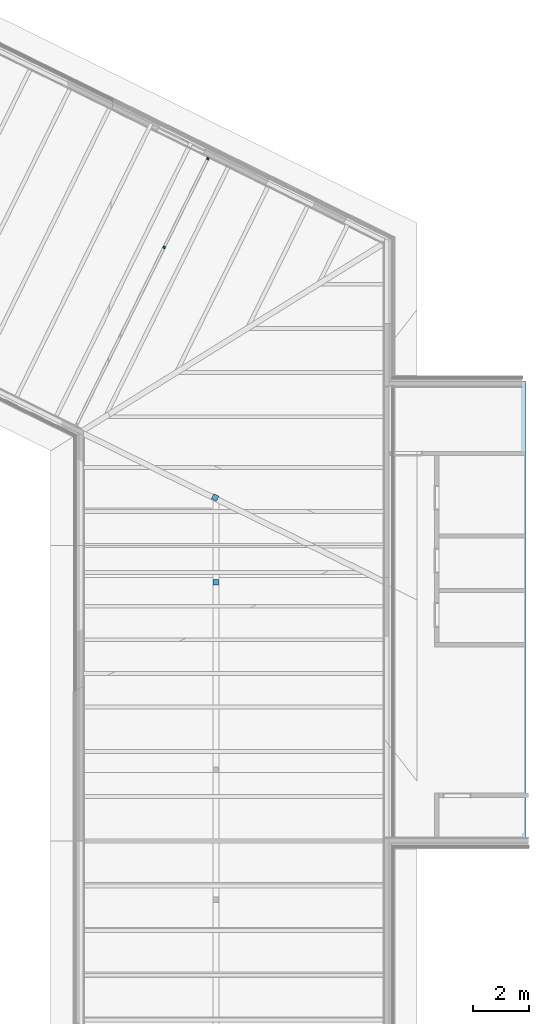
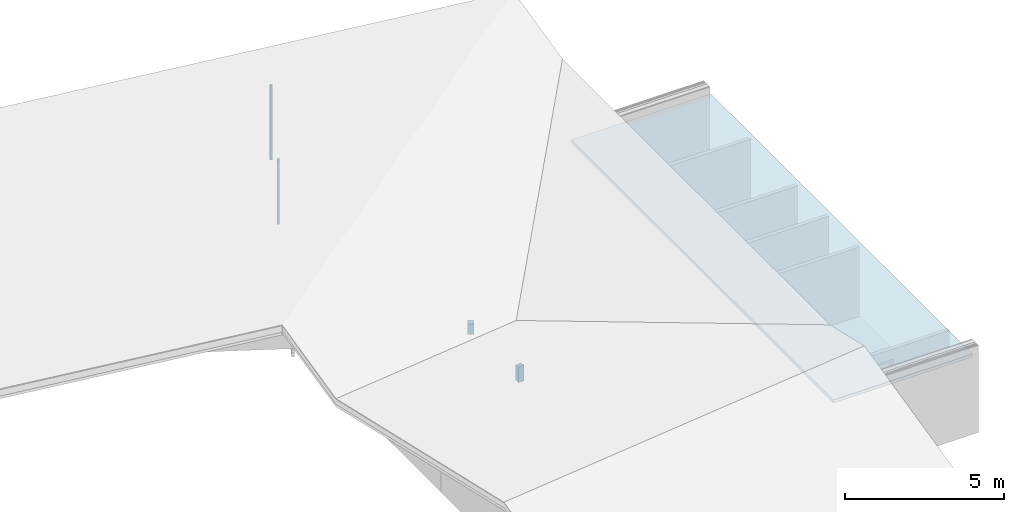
# One storey, part 2 of 14: 4 columns, 1 slab, 1 element without a shape of its own.
"""IFC4 building model written with IfcOpenShell, lengths in metres."""

from ifc_helpers import new_model, entity, si_unit, converted_unit, derived_unit, frame, frame_2d, origin, origin_with_axes, place, context, subcontext, project, spatial, rectangle, extrude, clip, halfspace, material, element, aggregate, save


model = new_model("IFC4")

# Units and contexts
model_context = context("Model", 3, precision=1e-05, world=origin())
body_context = subcontext(model_context, "Body", "Model", "MODEL_VIEW")
ifc_project = project(units=[si_unit("LENGTHUNIT", "METRE"), si_unit("AREAUNIT", "SQUARE_METRE"), si_unit("VOLUMEUNIT", "CUBIC_METRE"), si_unit("MASSUNIT", "GRAM", prefix="KILO"), converted_unit("PLANEANGLEUNIT", "DEGREE", entity("IfcPlaneAngleMeasure", 0.0174532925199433), si_unit("PLANEANGLEUNIT", "RADIAN"), dimensions=[0, 0, 0, 0, 0, 0, 0]), derived_unit("THERMALTRANSMITTANCEUNIT", [(si_unit("POWERUNIT", "WATT"), 1), (si_unit("THERMODYNAMICTEMPERATUREUNIT", "KELVIN"), -1), (si_unit("LENGTHUNIT", "METRE"), -2)]), derived_unit("VOLUMETRICFLOWRATEUNIT", [(si_unit("LENGTHUNIT", "METRE"), 3), (converted_unit("TIMEUNIT", "hour", entity("IfcTimeMeasure", 3600.0), si_unit("TIMEUNIT", "SECOND"), dimensions=[0, 0, 1, 0, 0, 0, 0]), -1), (si_unit("LENGTHUNIT", "METRE"), -1)])], contexts=[model_context])

# Site, building, storey
site_placement = place(None, origin())
site = spatial("IfcSite", under=ifc_project, at=site_placement, Name="Psychiatrie Neubau Wunstorf", CompositionType="ELEMENT")
building_placement = place(site_placement, origin())
building = spatial("IfcBuilding", under=site, at=building_placement, Name="Neubau H1 Sozialzentrum", CompositionType="ELEMENT")
storey_placement = place(building_placement, frame((0.0, 0.0, 4.45)))
storey = spatial("IfcBuildingStorey", under=building, at=storey_placement, Name="H1 Ebene +1", CompositionType="ELEMENT", Elevation=4.45)

# Assembly, columns
assembly_placement = place(storey_placement, frame((0.0, 0.0, -4.45)))
assembly = element("IfcElementAssembly", 1, at=assembly_placement, inside=storey, Name="Fachwerkträger", PredefinedType="NOTDEFINED")
ifc_material_1 = material(Name="ST-H")
column_1_placement = place(assembly_placement, frame((-11.4609545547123, 36.321943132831, 3.85)))
column_1 = element("IfcColumn", 2, at=column_1_placement, material=ifc_material_1, PredefinedType="COLUMN", context=body_context, shape_type="Clipping", body=[
    clip(extrude(rectangle(XDim=0.0800000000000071, YDim=0.080000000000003, at=frame_2d((0.018187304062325, -0.0535651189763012), x_axis=(-0.442222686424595, -0.896905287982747))), origin_with_axes(), (0.0, 0.0, 1.0), 2.87434943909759), halfspace(frame((0.018187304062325, -0.0535651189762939, 2.86080004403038), z_axis=(0.246520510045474, -0.00405709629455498, -0.969129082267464), x_axis=(-0.43963138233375, -0.891649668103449, -0.108097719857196)), True)),
])
ifc_material_2 = material(Name="ST-H")
column_2_placement = place(assembly_placement, frame((-13.025221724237, 33.1493345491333, 3.85)))
column_2 = element("IfcColumn", 3, at=column_2_placement, material=ifc_material_2, PredefinedType="COLUMN", context=body_context, shape_type="Clipping", body=[
    clip(extrude(rectangle(XDim=0.0800000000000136, YDim=0.080000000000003, at=frame_2d((0.018187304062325, -0.0535651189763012), x_axis=(-0.442222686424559, -0.896905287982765))), origin_with_axes(), (0.0, 0.0, 1.0), 2.48972331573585), halfspace(frame((0.018187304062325, -0.0535651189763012, 2.47617392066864), z_axis=(0.246520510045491, -0.004057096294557, -0.969129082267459), x_axis=(-0.439631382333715, -0.891649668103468, -0.108097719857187)), True)),
])
aggregate(assembly, [column_1, column_2])

# Columns
ifc_material_3 = material(Name="ST-Stahl")
column_3_placement = place(storey_placement, frame((-11.0545268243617, 21.211337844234, 0.0)))
element("IfcColumn", 4, at=column_3_placement, inside=storey, material=ifc_material_3, PredefinedType="COLUMN", context=body_context, shape_type="Clipping", body=[
    clip(extrude(rectangle(XDim=0.200000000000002, YDim=0.2, at=frame_2d((-0.100000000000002, -0.1), x_axis=(-1.0, -1.81898940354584e-14))), origin_with_axes(), (0.0, 0.0, 1.0), 0.619593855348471), halfspace(frame((-0.1, -0.100000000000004, 0.585724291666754), z_axis=(0.105340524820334, -0.222900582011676, -0.969132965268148), x_axis=(0.994144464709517, 0.0, 0.108059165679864)), True)),
])
ifc_material_4 = material(Name="ST-H")
column_4_placement = place(storey_placement, frame((-11.0459348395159, 24.1964903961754, 0.0)))
element("IfcColumn", 5, at=column_4_placement, inside=storey, material=ifc_material_4, PredefinedType="COLUMN", context=body_context, shape_type="SweptSolid", body=[
    extrude(rectangle(XDim=0.200000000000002, YDim=0.200000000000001, at=frame_2d((-0.133912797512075, -0.0454682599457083), x_axis=(-0.896905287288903, 0.442222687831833))), origin_with_axes(), (0.0, 0.0, 1.0), 0.40783),
])

# Slab
ifc_material_5 = material(Name="H")
slab_placement = place(storey_placement, frame((-5.13052851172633, 11.7962463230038, 2.66)))
element("IfcSlab", 6, at=slab_placement, inside=storey, material=ifc_material_5, PredefinedType="FLOOR", context=body_context, shape_type="SweptSolid", body=[
    extrude(rectangle(XDim=5.06452851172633, YDim=16.4939982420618, at=frame_2d((2.53226425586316, 8.24699912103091), x_axis=(1.0, 0.0))), origin_with_axes(), (0.0, 0.0, 1.0), 0.12),
])

save(model, "model.ifc")
